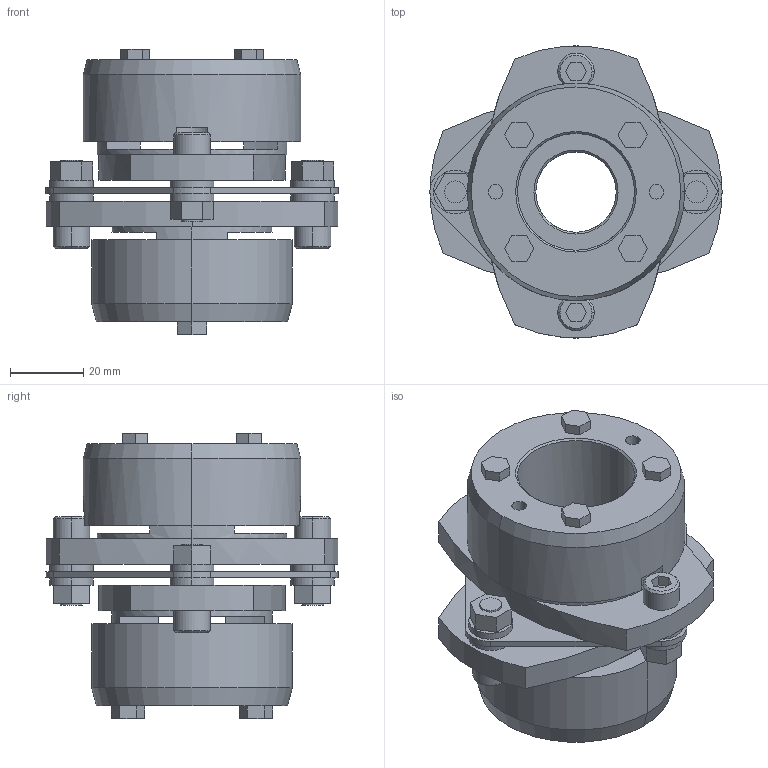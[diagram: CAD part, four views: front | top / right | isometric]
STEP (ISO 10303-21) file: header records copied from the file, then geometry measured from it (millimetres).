
FILE_DESCRIPTION((''),'2;1');
FILE_NAME('LCS-80T7-22×32.stp','2011-09-12T15:57:27',(''),(''),'AutoCAD STEP 2000i','AutoCAD 2000i',', , ');
FILE_SCHEMA(('CONFIG_CONTROL_DESIGN'));
Length unit declared in the file: millimetre
Products named in the file (12): LCS-80T7-22×32; 忣兜1; LC80T7-T032; LC80T7-T030; LC80T7-T028; LC80T7-T024; LC80T7-T022-1; LC80T7-T022; LC80T7-T019; LC80T7-T017-1; LC80T7-T017; LCS80-ITA
Assembly tree (11 placements, depth 2):
  LCS-80T7-22×32
    忣兜1
    LC80T7-T032
    LC80T7-T030
    LC80T7-T028
    LC80T7-T024
    LC80T7-T022-1
    LC80T7-T022
    LC80T7-T019
    LC80T7-T017-1
    LC80T7-T017
    LCS80-ITA
Bounding box: 80 x 79.95 x 78.05 mm (x, y, z)
Volume: 143881.1 mm3; surface area: 42727 mm2
Topology: 1 solids, 1 shells, 239 faces, 588 edges, 384 vertices
Faces by surface type: plane 137, cylinder 82, cone 20
Entity records: 7367 total; most frequent: DIRECTION 1302, CARTESIAN_POINT 1223, ORIENTED_EDGE 1176, EDGE_CURVE 588, AXIS2_PLACEMENT_3D 463, VERTEX_POINT 384, VECTOR 376, LINE 376
